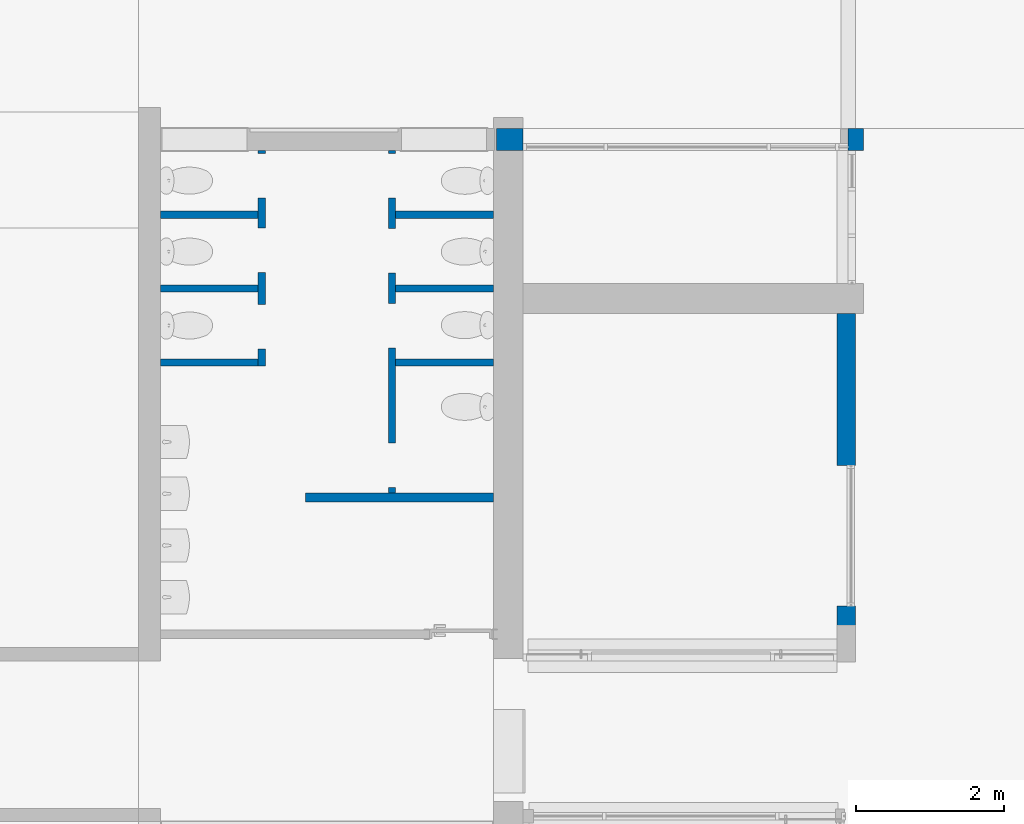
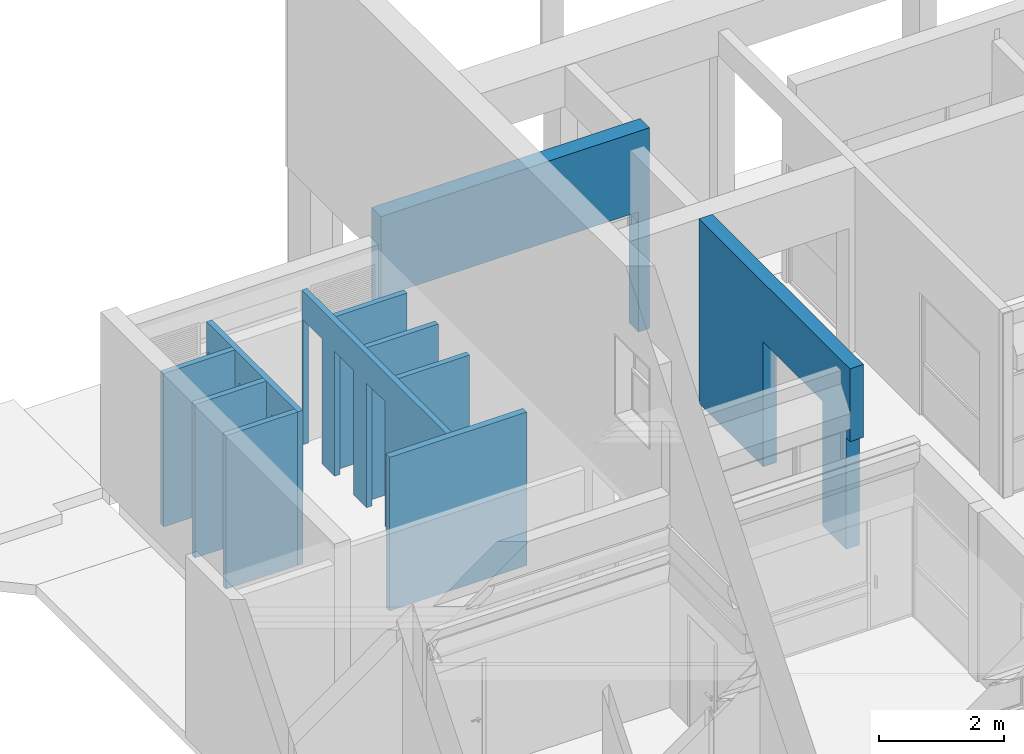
# One storey, part 85 of 117: 11 walls, 10 openings.
"""IFC4 building model written with IfcOpenShell, lengths in metres."""

from ifc_helpers import new_model, entity, si_unit, converted_unit, derived_unit, direction, frame, origin, place, context, subcontext, project, spatial, indexed_curve, outline, extrude, polygons, material, type_object, element, save


model = new_model("IFC4")

# Units and contexts
model_context = context("Model", 3, precision=1e-05, world=origin(), true_north=direction((6.123031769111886e-17, 1.0)))
body_context = subcontext(model_context, "Body", "Model", "MODEL_VIEW")
ifc_project = project(units=[si_unit("LENGTHUNIT", "METRE"), si_unit("AREAUNIT", "SQUARE_METRE"), si_unit("VOLUMEUNIT", "CUBIC_METRE"), converted_unit("PLANEANGLEUNIT", "DEGREE", entity("IfcRatioMeasure", 0.017453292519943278), si_unit("PLANEANGLEUNIT", "RADIAN"), dimensions=[0, 0, 0, 0, 0, 0, 0]), si_unit("MASSUNIT", "GRAM", prefix="KILO"), derived_unit("MASSDENSITYUNIT", [(si_unit("MASSUNIT", "GRAM", prefix="KILO"), 1), (si_unit("LENGTHUNIT", "METRE"), -3)]), derived_unit("MOMENTOFINERTIAUNIT", [(si_unit("LENGTHUNIT", "METRE"), 4)]), si_unit("TIMEUNIT", "SECOND"), si_unit("FREQUENCYUNIT", "HERTZ"), si_unit("THERMODYNAMICTEMPERATUREUNIT", "DEGREE_CELSIUS"), derived_unit("THERMALTRANSMITTANCEUNIT", [(si_unit("MASSUNIT", "GRAM", prefix="KILO"), 1), (si_unit("THERMODYNAMICTEMPERATUREUNIT", "KELVIN"), -1), (si_unit("TIMEUNIT", "SECOND"), -3)]), derived_unit("VOLUMETRICFLOWRATEUNIT", [(si_unit("LENGTHUNIT", "METRE"), 3), (si_unit("TIMEUNIT", "SECOND"), -1)]), derived_unit("MASSFLOWRATEUNIT", [(si_unit("MASSUNIT", "GRAM", prefix="KILO"), 1), (si_unit("TIMEUNIT", "SECOND"), -1)]), derived_unit("ROTATIONALFREQUENCYUNIT", [(si_unit("TIMEUNIT", "SECOND"), -1)]), si_unit("ELECTRICCURRENTUNIT", "AMPERE"), si_unit("ELECTRICVOLTAGEUNIT", "VOLT"), si_unit("POWERUNIT", "WATT"), si_unit("FORCEUNIT", "NEWTON", prefix="KILO"), si_unit("ILLUMINANCEUNIT", "LUX"), si_unit("LUMINOUSFLUXUNIT", "LUMEN"), si_unit("LUMINOUSINTENSITYUNIT", "CANDELA"), derived_unit("USERDEFINED", [(si_unit("MASSUNIT", "GRAM", prefix="KILO"), -1), (si_unit("LENGTHUNIT", "METRE"), -2), (si_unit("TIMEUNIT", "SECOND"), 3), (si_unit("LUMINOUSFLUXUNIT", "LUMEN"), 1)]), derived_unit("SOUNDPOWERUNIT", [(si_unit("MASSUNIT", "GRAM", prefix="KILO"), 1), (si_unit("LENGTHUNIT", "METRE"), 2), (si_unit("TIMEUNIT", "SECOND"), -3)]), derived_unit("SOUNDPRESSUREUNIT", [(si_unit("MASSUNIT", "GRAM", prefix="KILO"), 1), (si_unit("LENGTHUNIT", "METRE"), -1), (si_unit("TIMEUNIT", "SECOND"), -2)]), derived_unit("LINEARVELOCITYUNIT", [(si_unit("LENGTHUNIT", "METRE"), 1), (si_unit("TIMEUNIT", "SECOND"), -1)]), si_unit("PRESSUREUNIT", "PASCAL"), derived_unit("USERDEFINED", [(si_unit("LENGTHUNIT", "METRE"), -2), (si_unit("MASSUNIT", "GRAM", prefix="KILO"), 1), (si_unit("TIMEUNIT", "SECOND"), -2)]), derived_unit("LINEARFORCEUNIT", [(si_unit("MASSUNIT", "GRAM", prefix="KILO"), 1), (si_unit("LENGTHUNIT", "METRE"), 1), (si_unit("TIMEUNIT", "SECOND"), -2), (si_unit("LENGTHUNIT", "METRE"), -1)]), derived_unit("PLANARFORCEUNIT", [(si_unit("MASSUNIT", "GRAM", prefix="KILO"), 1), (si_unit("LENGTHUNIT", "METRE"), 1), (si_unit("TIMEUNIT", "SECOND"), -2), (si_unit("LENGTHUNIT", "METRE"), -2)])], contexts=[model_context])

# Site, building, storey
site_placement = place(None, origin())
site = spatial("IfcSite", under=ifc_project, at=site_placement, Name="Superficie", CompositionType="ELEMENT")
building_placement = place(site_placement, origin())
building = spatial("IfcBuilding", under=site, at=building_placement, CompositionType="ELEMENT")
storey_placement = place(building_placement, origin())
storey = spatial("IfcBuildingStorey", under=building, at=storey_placement, Name="Nivel 0", CompositionType="ELEMENT", Elevation=0.0)

# Wall, openings
ifc_material = material(Name="Muro por defecto", Category="Varios")
wall_type_1 = type_object("IfcWallType", Name="Muro básico:Por defecto - 25 cm 2", PredefinedType="STANDARD")
wall_1_placement = place(storey_placement, frame((-18.268200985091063, 5.535829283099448, 0.0), z_axis=(0.0, 0.0, 1.0), x_axis=(0.0, 1.0, 0.0)))
wall_1 = element("IfcWall", 1, at=wall_1_placement, inside=storey, type_object=wall_type_1, material=ifc_material, Name="Muro básico:Por defecto - 25 cm 2", ObjectType="Muro básico:Por defecto - 25 cm 2", PredefinedType="NOTDEFINED", context=body_context, shape_type="Tessellation", body=[
    polygons([(4.8349999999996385, -0.1250000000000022, 0.0), (4.8349999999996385, -0.1250000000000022, 3.5999999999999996), (0.0, -0.12500000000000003, 3.5999999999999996), (0.0, -0.12500000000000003, 2.17479715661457), (0.12000000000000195, -0.12499999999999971, 2.17479715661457), (0.12000000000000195, -0.12499999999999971, 0.0), (0.8739147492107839, -0.12499999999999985, 0.0), (0.8739147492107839, -0.12499999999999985, 2.44), (2.7800000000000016, -0.12499999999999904, 2.44), (2.7800000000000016, -0.12499999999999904, 0.0), (4.834999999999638, 0.12499999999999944, 3.5999999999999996), (4.834999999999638, 0.12499999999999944, 0.0), (2.7800000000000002, 0.12500000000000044, 0.0), (2.7800000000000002, 0.12500000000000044, 2.44), (0.8739147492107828, 0.12499999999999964, 2.44), (0.8739147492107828, 0.12499999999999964, 0.0), (0.12000000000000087, 0.12499999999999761, 0.0), (0.12000000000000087, 0.12499999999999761, 2.17479715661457), (0.0, 0.12499999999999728, 2.17479715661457), (0.0, 0.12499999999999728, 3.5999999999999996)], [[[1, 2, 3, 4, 5, 6, 7, 8, 9, 10]], [[11, 12, 13, 14, 15, 16, 17, 18, 19, 20]], [[16, 7, 6, 17]], [[2, 1, 12, 11]], [[3, 2, 11, 20]], [[3, 20, 19, 4]], [[8, 15, 14, 9]], [[15, 8, 7, 16]], [[9, 14, 13, 10]], [[18, 5, 4, 19]], [[5, 18, 17, 6]], [[12, 1, 10, 13]]], closed=True),
])
opening_1_placement = place(wall_1_placement, origin())
element("IfcOpeningElement", 2, at=opening_1_placement, cuts=wall_1, Name="Muro básico:Por defecto - 25 cm 2", PredefinedType="OPENING", context=body_context, shape_type="SweptSolid", body=[
    extrude(outline(indexed_curve([(-1.4816462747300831, -0.9530426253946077), (1.4816462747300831, -0.9530426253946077), (1.4816462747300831, 0.9530426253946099), (-1.4816462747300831, 0.9530426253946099), (-1.4816462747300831, -0.9530426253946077)], self_intersect=False)), frame((1.8269573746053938, -0.12499999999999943, 0.9583537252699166), z_axis=(0.0, 1.0, 0.0), x_axis=(0.0, 0.0, -1.0)), (0.0, 0.0, 1.0), 0.24999999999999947),
])
opening_2_placement = place(wall_1_placement, origin())
element("IfcOpeningElement", 3, at=opening_2_placement, cuts=wall_1, Name="Muro básico:Por defecto - 25 cm 2", PredefinedType="OPENING", context=body_context, shape_type="SweptSolid", body=[
    extrude(outline(indexed_curve([(-1.1449438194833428, -0.08000000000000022), (1.1449438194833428, -0.08000000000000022), (1.1449438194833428, 0.08000000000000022), (-1.1449438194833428, 0.08000000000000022), (-1.1449438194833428, -0.08000000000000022)], self_intersect=False)), frame((0.040000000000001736, -0.1249999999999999, 1.0298533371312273), z_axis=(0.0, 1.0, 0.0), x_axis=(0.0, 0.0, -1.0)), (0.0, 0.0, 1.0), 0.24999999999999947),
])

# Wall, opening
wall_type_2 = type_object("IfcWallType", Name="Muro básico:Por defecto - 30 cm", PredefinedType="STANDARD")
wall_2_placement = place(storey_placement, frame((-23.000700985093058, 12.720829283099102, 0.0)))
wall_2 = element("IfcWall", 4, at=wall_2_placement, inside=storey, type_object=wall_type_2, material=ifc_material, Name="Muro básico:Por defecto - 30 cm", ObjectType="Muro básico:Por defecto - 30 cm", PredefinedType="NOTDEFINED", context=body_context, shape_type="Tessellation", body=[
    polygons([(4.963297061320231, -0.15000000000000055, 0.0), (4.963297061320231, -0.15000000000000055, 3.9199999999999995), (0.35749999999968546, -0.15000000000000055, 3.919999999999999), (5.86254492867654e-16, -0.15000000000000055, 3.9199999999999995), (5.86254492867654e-16, -0.15000000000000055, 0.0), (0.3587935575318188, -0.15000000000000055, 0.0), (0.3587935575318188, -0.15000000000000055, 2.347222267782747), (4.657500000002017, -0.15000000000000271, 2.347222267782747), (4.657500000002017, -0.15000000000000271, 0.0), (4.9632970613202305, 0.15000000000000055, 3.9199999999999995), (4.9632970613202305, 0.15000000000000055, 0.0), (4.657500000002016, 0.14999999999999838, 0.0), (4.657500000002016, 0.14999999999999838, 2.347222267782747), (0.35879355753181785, 0.15000000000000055, 2.347222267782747), (0.35879355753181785, 0.15000000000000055, 0.0), (-3.300803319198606e-16, 0.15000000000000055, 0.0), (-3.300803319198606e-16, 0.15000000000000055, 3.9199999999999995), (0.3574999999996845, 0.15000000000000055, 3.919999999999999)], [[[1, 2, 3, 4, 5, 6, 7, 8, 9]], [[10, 11, 12, 13, 14, 15, 16, 17, 18]], [[5, 16, 15, 6]], [[2, 1, 11, 10]], [[5, 4, 17, 16]], [[4, 3, 18, 17]], [[3, 2, 10, 18]], [[7, 14, 13, 8]], [[14, 7, 6, 15]], [[8, 13, 12, 9]], [[11, 1, 9, 12]]], closed=True),
])
opening_3_placement = place(wall_2_placement, origin())
element("IfcOpeningElement", 5, at=opening_3_placement, cuts=wall_2, Name="Muro básico:Por defecto - 30 cm", PredefinedType="OPENING", context=body_context, shape_type="SweptSolid", body=[
    extrude(outline(indexed_curve([(-1.1736111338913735, -2.1993532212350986), (1.1736111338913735, -2.1993532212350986), (1.1736111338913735, 2.1993532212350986), (-1.1736111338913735, 2.1993532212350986), (-1.1736111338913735, -2.1993532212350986)], self_intersect=False)), frame((2.5581467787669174, -0.15000000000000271, 1.1736111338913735), z_axis=(0.0, 1.0, 0.0), x_axis=(0.0, 0.0, -1.0)), (0.0, 0.0, 1.0), 0.3000000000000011),
])

# Wall, openings
wall_type_3 = type_object("IfcWallType", Name="Muro básico:Por defecto - 10 cm", PredefinedType="STANDARD")
wall_3_placement = place(storey_placement, frame((-24.41320098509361, 7.9408292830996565, 0.0), z_axis=(0.0, 0.0, 1.0), x_axis=(0.0, 1.0, 0.0)))
wall_3 = element("IfcWall", 6, at=wall_3_placement, inside=storey, type_object=wall_type_3, material=ifc_material, Name="Muro básico:Por defecto - 10 cm", ObjectType="Muro básico:Por defecto - 10 cm", PredefinedType="NOTDEFINED", context=body_context, shape_type="Tessellation", body=[
    polygons([(4.6299999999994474, -0.04999999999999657, 0.0), (4.6299999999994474, -0.04999999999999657, 2.9999999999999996), (3.8150000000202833, -0.04999999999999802, 2.999999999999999), (3.7150000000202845, -0.04999999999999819, 2.9999999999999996), (2.8150000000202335, -0.04999999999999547, 2.9999999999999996), (2.7150000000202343, -0.049999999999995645, 2.9999999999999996), (1.8150000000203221, -0.04999999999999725, 2.9999999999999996), (1.7150000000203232, -0.04999999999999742, 2.9999999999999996), (0.0, -0.049999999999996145, 2.9999999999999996), (0.0, -0.049999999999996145, 0.0), (0.07305213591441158, -0.04999999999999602, 0.0), (0.07305213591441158, -0.04999999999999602, 2.4384), (0.6730521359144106, -0.04999999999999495, 2.4384), (0.6730521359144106, -0.04999999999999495, 0.0), (1.7150000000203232, -0.04999999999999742, 0.0), (1.8150000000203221, -0.04999999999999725, 0.0), (1.9616729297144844, -0.04999999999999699, 0.0), (1.9616729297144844, -0.04999999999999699, 2.4384), (2.561672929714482, -0.049999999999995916, 2.4384), (2.561672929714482, -0.049999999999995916, 0.0), (2.7150000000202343, -0.049999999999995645, 0.0), (2.8150000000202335, -0.04999999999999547, 0.0), (2.977162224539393, -0.04999999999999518, 0.0), (2.977162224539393, -0.04999999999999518, 2.4384), (3.577162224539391, -0.049999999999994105, 2.4384), (3.577162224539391, -0.049999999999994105, 0.0), (3.7150000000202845, -0.04999999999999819, 0.0), (3.8150000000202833, -0.04999999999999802, 0.0), (3.9894896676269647, -0.04999999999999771, 0.0), (3.9894896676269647, -0.04999999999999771, 2.4384), (4.589489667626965, -0.04999999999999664, 2.4384), (4.589489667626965, -0.04999999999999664, 0.0), (4.6299999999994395, 0.050000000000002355, 3.0000000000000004), (4.6299999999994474, 0.050000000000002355, 0.0), (4.589489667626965, 0.050000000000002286, 0.0), (4.589489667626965, 0.050000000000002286, 2.4384), (3.9894896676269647, 0.05000000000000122, 2.4384), (3.9894896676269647, 0.05000000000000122, 0.0), (3.577162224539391, 0.05000000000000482, 0.0), (3.577162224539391, 0.05000000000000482, 2.4384), (2.977162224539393, 0.05000000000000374, 2.4384), (2.977162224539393, 0.05000000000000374, 0.0), (2.561672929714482, 0.05000000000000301, 0.0), (2.561672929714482, 0.05000000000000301, 2.4384), (1.9616729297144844, 0.05000000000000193, 2.4384), (1.9616729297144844, 0.05000000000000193, 0.0), (0.6730521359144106, 0.05000000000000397, 0.0), (0.6730521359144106, 0.05000000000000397, 2.4384), (0.07305213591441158, 0.0500000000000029, 2.4384), (0.07305213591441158, 0.0500000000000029, 0.0), (0.0, 0.05000000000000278, 0.0), (0.0, 0.05000000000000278, 2.9999999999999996)], [[[1, 2, 3, 4, 5, 6, 7, 8, 9, 10, 11, 12, 13, 14, 15, 16, 17, 18, 19, 20, 21, 22, 23, 24, 25, 26, 27, 28, 29, 30, 31, 32]], [[33, 34, 35, 36, 37, 38, 39, 40, 41, 42, 43, 44, 45, 46, 47, 48, 49, 50, 51, 52]], [[10, 51, 50, 11]], [[10, 9, 52, 51]], [[9, 8, 7, 6, 5, 4, 3, 2, 33, 52]], [[2, 1, 34, 33]], [[30, 37, 36, 31]], [[37, 30, 29, 38]], [[31, 36, 35, 32]], [[24, 41, 40, 25]], [[41, 24, 23, 42]], [[25, 40, 39, 26]], [[18, 45, 44, 19]], [[45, 18, 17, 46]], [[19, 44, 43, 20]], [[12, 49, 48, 13]], [[49, 12, 11, 50]], [[13, 48, 47, 14]], [[46, 17, 16, 15, 14, 47]], [[42, 23, 22, 21, 20, 43]], [[38, 29, 28, 27, 26, 39]], [[34, 1, 32, 35]]], closed=True),
])
opening_4_placement = place(wall_3_placement, origin())
element("IfcOpeningElement", 7, at=opening_4_placement, cuts=wall_3, Name="Muro básico:Por defecto - 10 cm", PredefinedType="OPENING", context=body_context, shape_type="SweptSolid", body=[
    extrude(outline(indexed_curve([(-1.2192, -0.29999999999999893), (1.2192, -0.29999999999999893), (1.2192, 0.3000000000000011), (-1.2192, 0.3000000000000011), (-1.2192, -0.29999999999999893)], self_intersect=False)), frame((4.289489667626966, -0.05000000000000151, 1.2192), z_axis=(0.0, 1.0, 0.0), x_axis=(0.0, 0.0, -1.0)), (0.0, 0.0, 1.0), 0.10000000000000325),
])
opening_5_placement = place(wall_3_placement, origin())
element("IfcOpeningElement", 8, at=opening_5_placement, cuts=wall_3, Name="Muro básico:Por defecto - 10 cm", PredefinedType="OPENING", context=body_context, shape_type="SweptSolid", body=[
    extrude(outline(indexed_curve([(-1.2192, -0.29999999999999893), (1.2192, -0.29999999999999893), (1.2192, 0.29999999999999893), (-1.2192, 0.29999999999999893), (-1.2192, -0.29999999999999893)], self_intersect=False)), frame((3.277162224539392, -0.04999999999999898, 1.2192), z_axis=(0.0, 1.0, 0.0), x_axis=(0.0, 0.0, -1.0)), (0.0, 0.0, 1.0), 0.10000000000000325),
])
opening_6_placement = place(wall_3_placement, origin())
element("IfcOpeningElement", 9, at=opening_6_placement, cuts=wall_3, Name="Muro básico:Por defecto - 10 cm", PredefinedType="OPENING", context=body_context, shape_type="SweptSolid", body=[
    extrude(outline(indexed_curve([(-1.2192, -0.29999999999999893), (1.2192, -0.29999999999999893), (1.2192, 0.29999999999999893), (-1.2192, 0.29999999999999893), (-1.2192, -0.29999999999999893)], self_intersect=False)), frame((2.261672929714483, -0.05000000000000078, 1.2192), z_axis=(0.0, 1.0, 0.0), x_axis=(0.0, 0.0, -1.0)), (0.0, 0.0, 1.0), 0.10000000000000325),
])
opening_7_placement = place(wall_3_placement, origin())
element("IfcOpeningElement", 10, at=opening_7_placement, cuts=wall_3, Name="Muro básico:Por defecto - 10 cm", PredefinedType="OPENING", context=body_context, shape_type="SweptSolid", body=[
    extrude(outline(indexed_curve([(-1.2192, -0.29999999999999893), (1.2192, -0.29999999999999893), (1.2192, 0.30000000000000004), (-1.2192, 0.30000000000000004), (-1.2192, -0.29999999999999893)], self_intersect=False)), frame((0.3730521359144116, -0.049999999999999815, 1.2192), z_axis=(0.0, 1.0, 0.0), x_axis=(0.0, 0.0, -1.0)), (0.0, 0.0, 1.0), 0.10000000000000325),
])

# Walls
wall_4_placement = place(storey_placement, frame((-23.04320098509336, 9.705829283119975, 0.0), z_axis=(0.0, 0.0, 1.0), x_axis=(-1.0, 0.0, 0.0)))
element("IfcWall", 11, at=wall_4_placement, inside=storey, type_object=wall_type_3, material=ifc_material, Name="Muro básico:Por defecto - 10 cm", ObjectType="Muro básico:Por defecto - 10 cm", PredefinedType="NOTDEFINED", context=body_context, shape_type="Tessellation", body=[
    polygons([(1.6926502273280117e-15, -0.04999999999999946, 0.0), (1.3200000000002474, -0.04999999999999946, 0.0), (1.3200000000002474, -0.04999999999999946, 2.9999999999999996), (1.0355587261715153e-14, -0.04999999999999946, 2.9999999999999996), (1.3645086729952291e-15, 0.04999999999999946, 0.0), (1.3645086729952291e-15, 0.04999999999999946, 2.9999999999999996), (1.320000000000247, 0.04999999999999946, 2.9999999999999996), (1.320000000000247, 0.04999999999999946, 0.0)], [[[1, 2, 3, 4]], [[5, 6, 7, 8]], [[2, 1, 5, 8]], [[1, 4, 6, 5]], [[3, 2, 8, 7]], [[4, 3, 7, 6]]], closed=True),
])
wall_5_placement = place(storey_placement, frame((-23.04320098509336, 10.705829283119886, 0.0), z_axis=(0.0, 0.0, 1.0), x_axis=(-1.0, 0.0, 0.0)))
element("IfcWall", 12, at=wall_5_placement, inside=storey, type_object=wall_type_3, material=ifc_material, Name="Muro básico:Por defecto - 10 cm", ObjectType="Muro básico:Por defecto - 10 cm", PredefinedType="NOTDEFINED", context=body_context, shape_type="Tessellation", body=[
    polygons([(6.425972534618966e-16, -0.04999999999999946, 0.0), (1.3200000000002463, -0.04999999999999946, 0.0), (1.3200000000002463, -0.04999999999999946, 2.9999999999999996), (9.305534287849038e-15, -0.04999999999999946, 2.9999999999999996), (3.144556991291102e-16, 0.04999999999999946, 0.0), (3.144556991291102e-16, 0.04999999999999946, 2.9999999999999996), (1.3200000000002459, 0.04999999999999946, 2.9999999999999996), (1.3200000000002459, 0.04999999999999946, 0.0)], [[[1, 2, 3, 4]], [[5, 6, 7, 8]], [[2, 1, 5, 8]], [[1, 4, 6, 5]], [[3, 2, 8, 7]], [[4, 3, 7, 6]]], closed=True),
])
wall_6_placement = place(storey_placement, frame((-23.04320098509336, 11.705829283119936, 0.0), z_axis=(0.0, 0.0, 1.0), x_axis=(-1.0, 0.0, 0.0)))
element("IfcWall", 13, at=wall_6_placement, inside=storey, type_object=wall_type_3, material=ifc_material, Name="Muro básico:Por defecto - 10 cm", ObjectType="Muro básico:Por defecto - 10 cm", PredefinedType="NOTDEFINED", context=body_context, shape_type="Tessellation", body=[
    polygons([(-4.0745572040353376e-16, -0.04999999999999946, 0.0), (1.3200000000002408, -0.04999999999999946, 0.0), (1.3200000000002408, -0.04999999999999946, 2.9999999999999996), (8.255481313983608e-15, -0.04999999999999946, 2.9999999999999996), (-7.355972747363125e-16, 0.04999999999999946, 0.0), (-7.355972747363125e-16, 0.04999999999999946, 2.9999999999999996), (1.320000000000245, 0.04999999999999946, 2.9999999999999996), (1.3200000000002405, 0.04999999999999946, 0.0)], [[[1, 2, 3, 4]], [[5, 6, 7, 8]], [[2, 1, 5, 8]], [[1, 4, 6, 5]], [[3, 2, 8, 7]], [[4, 3, 7, 6]]], closed=True),
])

# Wall, openings
wall_7_placement = place(storey_placement, frame((-26.173200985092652, 12.570829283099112, 0.0), z_axis=(0.0, 0.0, 1.0), x_axis=(0.0, -1.0, 0.0)))
wall_7 = element("IfcWall", 14, at=wall_7_placement, inside=storey, type_object=wall_type_3, material=ifc_material, Name="Muro básico:Por defecto - 10 cm", ObjectType="Muro básico:Por defecto - 10 cm", PredefinedType="NOTDEFINED", context=body_context, shape_type="Tessellation", body=[
    polygons([(2.9149999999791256, -0.050000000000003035, 0.0), (2.9149999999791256, -0.050000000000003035, 2.9999999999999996), (2.8149999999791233, -0.049999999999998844, 2.9999999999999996), (1.9149999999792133, -0.05000000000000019, 2.9999999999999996), (1.8149999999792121, -0.05000000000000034, 2.9999999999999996), (0.9149999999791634, -0.049999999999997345, 2.9999999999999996), (0.8149999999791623, -0.0499999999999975, 2.9999999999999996), (1.2994405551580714e-14, -0.04999999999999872, 2.9999999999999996), (0.0, -0.04999999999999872, 0.0), (0.040829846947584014, -0.04999999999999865, 0.0), (0.040829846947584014, -0.04999999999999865, 2.4384), (0.6408298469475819, -0.04999999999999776, 2.4384), (0.6408298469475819, -0.04999999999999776, 0.0), (0.8149999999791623, -0.0499999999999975, 0.0), (0.9149999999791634, -0.049999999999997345, 0.0), (1.0463389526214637, -0.04999999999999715, 0.0), (1.0463389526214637, -0.04999999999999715, 2.4384), (1.6463389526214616, -0.05000000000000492, 2.4384), (1.6463389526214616, -0.05000000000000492, 0.0), (1.8149999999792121, -0.05000000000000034, 0.0), (1.9149999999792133, -0.05000000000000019, 0.0), (2.0834410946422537, -0.05000000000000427, 0.0), (2.0834410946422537, -0.05000000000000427, 2.4384), (2.6834410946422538, -0.05000000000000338, 2.4384), (2.6834410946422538, -0.05000000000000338, 0.0), (2.8149999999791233, -0.049999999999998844, 0.0), (2.9149999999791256, 0.050000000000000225, 2.9999999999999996), (2.9149999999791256, 0.050000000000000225, 0.0), (2.6834410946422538, 0.04999999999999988, 0.0), (2.6834410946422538, 0.04999999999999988, 2.4384), (2.0834410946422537, 0.04999999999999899, 2.4384), (2.0834410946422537, 0.04999999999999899, 0.0), (1.6463389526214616, 0.04999999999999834, 0.0), (1.6463389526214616, 0.04999999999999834, 2.4384), (1.0463389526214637, 0.05000000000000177, 2.4384), (1.0463389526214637, 0.05000000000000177, 0.0), (0.6408298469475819, 0.05000000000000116, 0.0), (0.6408298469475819, 0.05000000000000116, 2.4384), (0.040829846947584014, 0.05000000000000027, 2.4384), (0.040829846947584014, 0.05000000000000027, 0.0), (0.0, 0.050000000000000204, 0.0), (0.0, 0.050000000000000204, 2.9999999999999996)], [[[1, 2, 3, 4, 5, 6, 7, 8, 9, 10, 11, 12, 13, 14, 15, 16, 17, 18, 19, 20, 21, 22, 23, 24, 25, 26]], [[27, 28, 29, 30, 31, 32, 33, 34, 35, 36, 37, 38, 39, 40, 41, 42]], [[9, 41, 40, 10]], [[2, 1, 28, 27]], [[8, 7, 6, 5, 4, 3, 2, 27, 42]], [[9, 8, 42, 41]], [[23, 31, 30, 24]], [[31, 23, 22, 32]], [[24, 30, 29, 25]], [[17, 35, 34, 18]], [[35, 17, 16, 36]], [[18, 34, 33, 19]], [[11, 39, 38, 12]], [[39, 11, 10, 40]], [[12, 38, 37, 13]], [[36, 16, 15, 14, 13, 37]], [[32, 22, 21, 20, 19, 33]], [[28, 1, 26, 25, 29]]], closed=True),
])
opening_8_placement = place(wall_7_placement, origin())
element("IfcOpeningElement", 15, at=opening_8_placement, cuts=wall_7, Name="Muro básico:Por defecto - 10 cm", PredefinedType="OPENING", context=body_context, shape_type="SweptSolid", body=[
    extrude(outline(indexed_curve([(-1.2192, -0.29999999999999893), (1.2192, -0.29999999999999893), (1.2192, 0.3000000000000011), (-1.2192, 0.3000000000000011), (-1.2192, -0.29999999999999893)], self_intersect=False)), frame((2.383441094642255, -0.050000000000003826, 1.2192), z_axis=(0.0, 1.0, 0.0), x_axis=(0.0, 0.0, -1.0)), (0.0, 0.0, 1.0), 0.10000000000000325),
])
opening_9_placement = place(wall_7_placement, origin())
element("IfcOpeningElement", 16, at=opening_9_placement, cuts=wall_7, Name="Muro básico:Por defecto - 10 cm", PredefinedType="OPENING", context=body_context, shape_type="SweptSolid", body=[
    extrude(outline(indexed_curve([(-1.2192, -0.29999999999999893), (1.2192, -0.29999999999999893), (1.2192, 0.29999999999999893), (-1.2192, 0.29999999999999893), (-1.2192, -0.29999999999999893)], self_intersect=False)), frame((1.3463389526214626, -0.05000000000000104, 1.2192), z_axis=(0.0, 1.0, 0.0), x_axis=(0.0, 0.0, -1.0)), (0.0, 0.0, 1.0), 0.09999999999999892),
])
opening_10_placement = place(wall_7_placement, origin())
element("IfcOpeningElement", 17, at=opening_10_placement, cuts=wall_7, Name="Muro básico:Por defecto - 10 cm", PredefinedType="OPENING", context=body_context, shape_type="SweptSolid", body=[
    extrude(outline(indexed_curve([(-1.2192, -0.29999999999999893), (1.2192, -0.29999999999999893), (1.2192, 0.29999999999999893), (-1.2192, 0.29999999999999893), (-1.2192, -0.29999999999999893)], self_intersect=False)), frame((0.34082984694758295, -0.05000000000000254, 1.2192), z_axis=(0.0, 1.0, 0.0), x_axis=(0.0, 0.0, -1.0)), (0.0, 0.0, 1.0), 0.10000000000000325),
])

# Walls
wall_8_placement = place(storey_placement, frame((-26.223200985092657, 9.705829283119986, 0.0), z_axis=(0.0, 0.0, 1.0), x_axis=(-1.0, 0.0, 0.0)))
element("IfcWall", 18, at=wall_8_placement, inside=storey, type_object=wall_type_3, material=ifc_material, Name="Muro básico:Por defecto - 10 cm", ObjectType="Muro básico:Por defecto - 10 cm", PredefinedType="NOTDEFINED", context=body_context, shape_type="Tessellation", body=[
    polygons([(4.855763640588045e-15, -0.050000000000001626, 0.0), (1.3200000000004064, -0.05000000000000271, 0.0), (1.3200000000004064, -0.05000000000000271, 2.9999999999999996), (4.855763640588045e-15, -0.050000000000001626, 2.9999999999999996), (4.539598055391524e-15, 0.050000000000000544, 0.0), (4.539598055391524e-15, 0.050000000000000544, 2.9999999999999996), (1.3200000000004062, 0.0499999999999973, 2.9999999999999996), (1.3200000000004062, 0.0499999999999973, 0.0)], [[[1, 2, 3, 4]], [[5, 6, 7, 8]], [[2, 1, 5, 8]], [[1, 4, 6, 5]], [[4, 3, 7, 6]], [[3, 2, 8, 7]]], closed=True),
])
wall_9_placement = place(storey_placement, frame((-26.223200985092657, 10.705829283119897, 0.0), z_axis=(0.0, 0.0, 1.0), x_axis=(-1.0, 0.0, 0.0)))
element("IfcWall", 19, at=wall_9_placement, inside=storey, type_object=wall_type_3, material=ifc_material, Name="Muro básico:Por defecto - 10 cm", ObjectType="Muro básico:Por defecto - 10 cm", PredefinedType="NOTDEFINED", context=body_context, shape_type="Tessellation", body=[
    polygons([(3.685950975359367e-15, -0.050000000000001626, 0.0), (1.3200000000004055, -0.050000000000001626, 0.0), (1.3200000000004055, -0.050000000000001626, 2.9999999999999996), (3.685950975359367e-15, -0.050000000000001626, 2.9999999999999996), (3.3697853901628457e-15, 0.04999999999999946, 0.0), (3.3697853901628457e-15, 0.04999999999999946, 2.9999999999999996), (1.3200000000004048, 0.04999999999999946, 2.9999999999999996), (1.3200000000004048, 0.04999999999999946, 0.0)], [[[1, 2, 3, 4]], [[5, 6, 7, 8]], [[2, 1, 5, 8]], [[1, 4, 6, 5]], [[4, 3, 7, 6]], [[3, 2, 8, 7]]], closed=True),
])
wall_10_placement = place(storey_placement, frame((-26.22320098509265, 11.705829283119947, 0.0), z_axis=(0.0, 0.0, 1.0), x_axis=(-1.0, 0.0, 0.0)))
element("IfcWall", 20, at=wall_10_placement, inside=storey, type_object=wall_type_3, material=ifc_material, Name="Muro básico:Por defecto - 10 cm", ObjectType="Muro básico:Por defecto - 10 cm", PredefinedType="NOTDEFINED", context=body_context, shape_type="Tessellation", body=[
    polygons([(-1.815330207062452e-15, -0.050000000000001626, 0.0), (1.3200000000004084, -0.050000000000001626, 0.0), (1.3200000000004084, -0.050000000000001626, 2.9999999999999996), (-1.815330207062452e-15, -0.050000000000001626, 2.9999999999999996), (-2.131495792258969e-15, 0.04999999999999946, 0.0), (-2.131495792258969e-15, 0.04999999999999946, 2.9999999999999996), (1.3200000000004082, 0.04999999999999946, 2.9999999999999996), (1.3200000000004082, 0.04999999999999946, 0.0)], [[[1, 2, 3, 4]], [[5, 6, 7, 8]], [[2, 1, 5, 8]], [[1, 4, 6, 5]], [[4, 3, 7, 6]], [[3, 2, 8, 7]]], closed=True),
])
wall_type_4 = type_object("IfcWallType", Name="Muro básico:Por defecto - 12 cm 2", PredefinedType="STANDARD")
wall_11_placement = place(storey_placement, frame((-23.043200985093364, 7.880829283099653, 0.0), z_axis=(0.0, 0.0, 1.0), x_axis=(-1.0, 0.0, 0.0)))
element("IfcWall", 21, at=wall_11_placement, inside=storey, type_object=wall_type_4, material=ifc_material, Name="Muro básico:Por defecto - 12 cm 2", ObjectType="Muro básico:Por defecto - 12 cm 2", PredefinedType="NOTDEFINED", context=body_context, shape_type="Tessellation", body=[
    polygons([(1.0942219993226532e-15, -0.05999999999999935, 0.0), (1.3200000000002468, -0.05999999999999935, 0.0), (1.4200000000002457, -0.05999999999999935, 0.0), (2.540000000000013, -0.05999999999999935, 0.0), (2.540000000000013, -0.05999999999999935, 2.9999999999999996), (1.4200000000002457, -0.05999999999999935, 3.0000000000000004), (1.3200000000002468, -0.05999999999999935, 2.9999999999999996), (5.425690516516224e-15, -0.05999999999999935, 2.9999999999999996), (6.8494938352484e-16, 0.060000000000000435, 0.0), (6.8494938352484e-16, 0.060000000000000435, 2.9999999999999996), (2.540000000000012, 0.060000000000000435, 2.9999999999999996), (2.540000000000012, 0.060000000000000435, 0.0)], [[[1, 2, 3, 4, 5, 6, 7, 8]], [[9, 10, 11, 12]], [[4, 3, 2, 1, 9, 12]], [[5, 4, 12, 11]], [[1, 8, 10, 9]], [[8, 7, 6, 5, 11, 10]]], closed=True),
])

save(model, "model.ifc")
